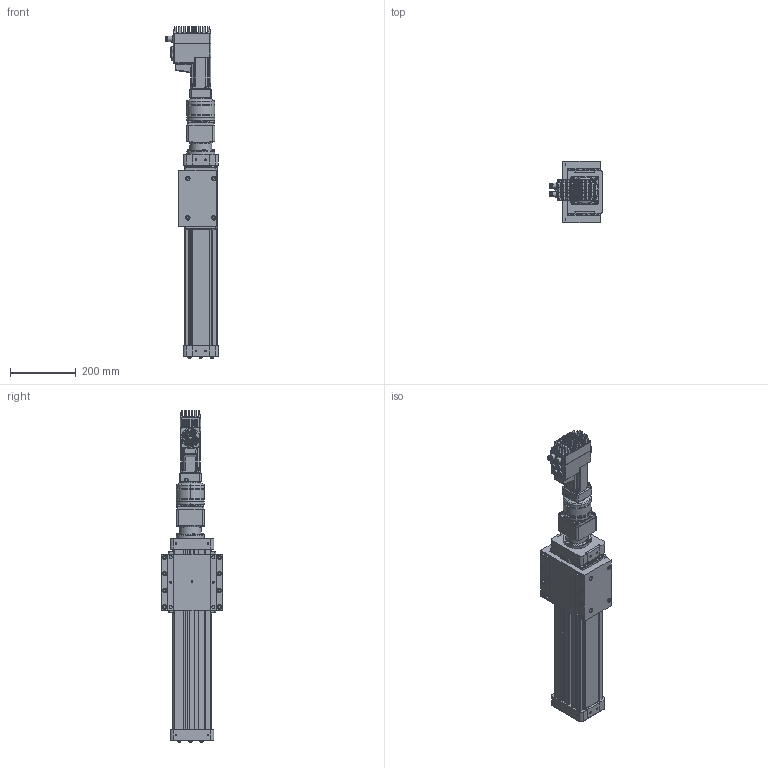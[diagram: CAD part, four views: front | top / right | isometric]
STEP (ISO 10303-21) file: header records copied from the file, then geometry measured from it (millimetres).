
FILE_DESCRIPTION (( 'STEP AP203' ), '1' );
FILE_NAME ('B3S20_D_BNL05_SM350.000_B3S-489103-1.step', '2025-05-27T11:56:49', ( '' ), ( '' ), 'SwSTEP 2.0', 'SolidWorks 2024', '' );
FILE_SCHEMA (( 'CONFIG_CONTROL_DESIGN' ));
Length unit declared in the file: inch
Products named in the file (5): 44209330_B3S20_D_BNL05_SM350.000_B3S-489103-1; Base_B3S20_D_BNL05_SM350.000_B3S-489103-1; tempJoin0_45109055_B3S20_D_BNL05_SM350.000_B3S-489103-1; B3S20_D_BNL05_SM350.000_B3S-489103-1; tempJoin0_36049142_B3S20_D_BNL05_SM350.000_B3S-489103-1
Assembly tree (4 placements, depth 2):
  B3S20_D_BNL05_SM350.000_B3S-489103-1
    tempJoin0_36049142_B3S20_D_BNL05_SM350.000_B3S-489103-1
    tempJoin0_45109055_B3S20_D_BNL05_SM350.000_B3S-489103-1
    44209330_B3S20_D_BNL05_SM350.000_B3S-489103-1
    Base_B3S20_D_BNL05_SM350.000_B3S-489103-1
Bounding box: 161.65 x 188.21 x 1013.76 mm (x, y, z)
Volume: 10349862.7 mm3; surface area: 1166057.3 mm2
Topology: 8 solids, 43 shells, 4637 faces, 11278 edges, 6918 vertices
Faces by surface type: plane 2076, cylinder 1379, bspline 922, cone 172, torus 72, sphere 16
Full cylindrical faces by diameter (mm): 0.7 x17, 0.9 x4, 1 x9, 1.2 x8, 1.6 x12, 1.65 x4, 1.7 x4, 1.8 x4, 1.981 x2, 2.013 x2, 2.5 x16, 2.6 x8, 3.1 x5, 3.454 x1, 4 x1, 4.2 x5, 4.201 x4, 4.318 x1, 4.333 x4, 4.4 x8, 4.5 x2, 4.763 x2, 4.768 x2, 4.826 x2, 5 x24, 5.001 x4, 5.08 x12, 5.2 x2, 5.5 x10, 5.69 x4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
Entity records: 173286 total; most frequent: CARTESIAN_POINT 74763, ORIENTED_EDGE 20958, DIRECTION 18204, EDGE_CURVE 10479, VERTEX_POINT 6759, AXIS2_PLACEMENT_3D 6477, EDGE_LOOP 5574, VECTOR 5250
